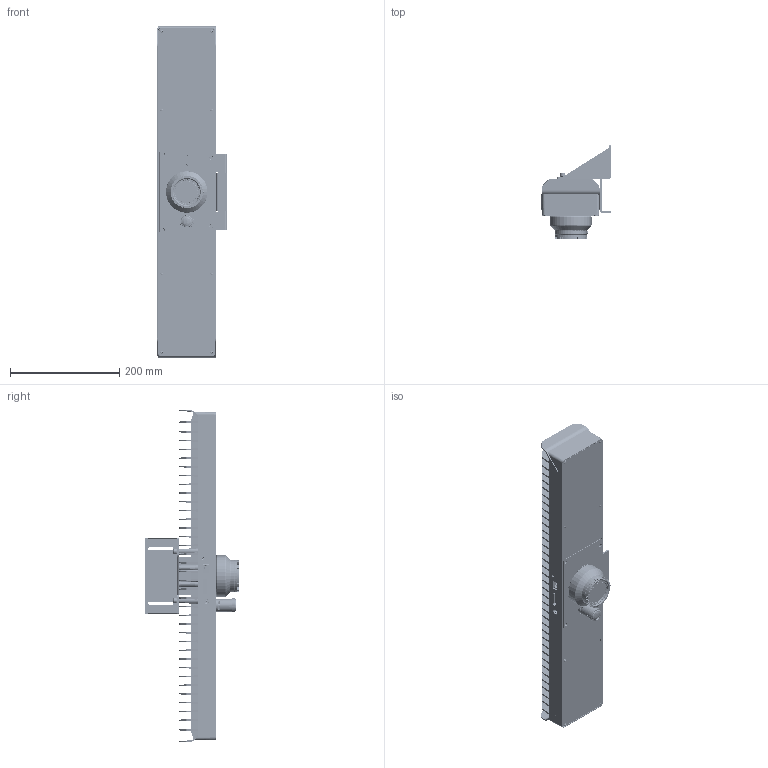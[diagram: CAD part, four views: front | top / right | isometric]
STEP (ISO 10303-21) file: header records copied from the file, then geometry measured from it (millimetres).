
FILE_DESCRIPTION((''),'2;1');
FILE_NAME('MV-ID7080EM-35F-WHA-L_ASM','2024-01-30T16:46:03',('qiaoxuan5'),(''),'CREO PARAMETRIC BY PTC INC, 2020044','CREO PARAMETRIC BY PTC INC, 2020044','');
FILE_SCHEMA(('CONFIG_CONTROL_DESIGN'));
Products named in the file (278): DE-13-000351; DE-13-000353_ASM; DE-14-008252; DE-14-030230; DE-14-009575; DE-14-009574_ASM; DE-14-009576; DE-14-009577; DE-14-009578; DE-14-009579; DE-14-009580; DE-14-009581; DE-14-009573_ASM; DE-14-009572_ASM; D-02-26-01-01-01-1; D-02-26-01-01-01-2; D-02-26-01-01-01_ASM; DE-19-000416; DE-11-016507; MV20360REV10; 101302581; C3608-10XX-701_DC_0001; 101300547; 101302107; 101301537; 100601013_ZHEWAN; 101304838; MV20360REV10_ASM; MV21282REV10; MV-21282_SENSOR; 101105869; 101304837; 101301607; ST-D4X4_5D3_3X3_5-F2X5-CU; 101301358; MV21282REV10_ASM; MV-20360REV10-1-202211111401; 12345; 100900521; 100900590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
Assembly tree (1792 placements, depth 5):
  MV-ID7080EM-35F-WHA-L_ASM
    DE-13-000353_ASM
      DE-13-000351
    DE-14-008252  x2
    DE-14-030230
    DE-14-009572_ASM
      DE-14-009573_ASM
        DE-14-009574_ASM
          DE-14-009575  x3
        DE-14-009576
        DE-14-009577
        DE-14-009578
        DE-14-009579  x4
        DE-14-009580
        DE-14-009581
    D-02-26-01-01-01_ASM
      D-02-26-01-01-01-1
      D-02-26-01-01-01-2
    DE-19-000416
    DE-11-016507
    MV20360REV10_ASM
      MV20360REV10
      101302581
      C3608-10XX-701_DC_0001
      101300547
      101302107
      101301537  x4
      100601013_ZHEWAN
      101304838
    MV21282REV10_ASM
      MV21282REV10
      MV-21282_SENSOR
      101105869
      101304837
      101301607
      ST-D4X4_5D3_3X3_5-F2X5-CU  x2
      101301358  x2
    MV-20360REV10-1-202211111401_ASM
      MV-20360REV10-1-202211111401
      12345
      100900521
      100900590
      100900228
      910900439  x2
      193200076  x7
      101107887
      101107513  x2
      101102684
      101304838
      101107753
      1068  x6
      1002  x2
      1005
      100100918  x2
      100600616
      100100434  x3
      100100436  x4
      100300173
      910900012
      100201001  x18
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Bounding box: 127.6 x 173.27 x 608.26 mm (x, y, z)
Volume: 2067135.3 mm3; surface area: 1021634.4 mm2
Topology: 1783 solids, 1924 shells, 47870 faces, 126082 edges, 83424 vertices
Faces by surface type: plane 37244, cylinder 8305, torus 831, bspline 563, cone 545, sphere 230, extrusion 137, revolution 15
Entity records: 755160 total; most frequent: CARTESIAN_POINT 176383, ORIENTED_EDGE 119599, DIRECTION 119542, EDGE_CURVE 60205, VECTOR 43323, LINE 43232, VERTEX_POINT 39704, AXIS2_PLACEMENT_3D 38102
